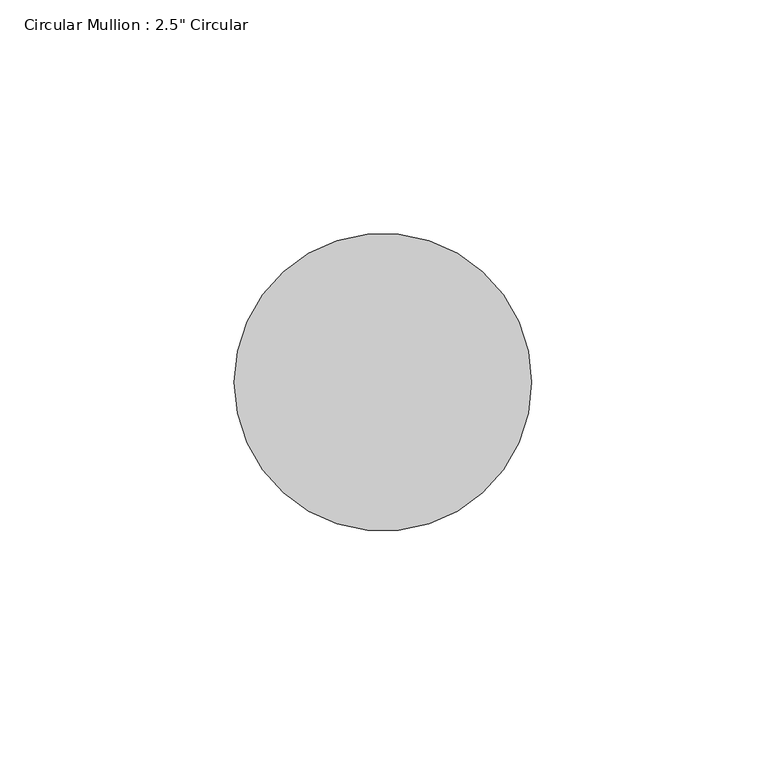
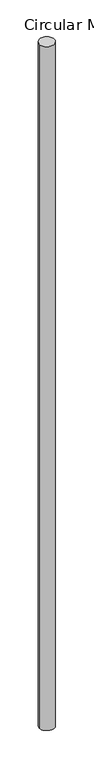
"""IFC4 building model written with IfcOpenShell, lengths in millimetres: member geometry."""

from ifc_helpers import new_model, si_unit, frame, origin, origin_with_axes, place, context, project, spatial, circle_curve, ellipse_curve, source, transform, mapped, element, save
from ifc_brep_helpers import plane_surface, cylinder_surface, advanced_brep


def member_4b4d288b(model_context):
    return source(origin(), model_context, "Body", "AdvancedBrep", [
        advanced_brep(
        [(31.75, 0.0, 0.0), (-31.75, 0.0, 0.0), (31.75, 0.0, -3041.4255191), (-31.75, 0.0, -3040.4271589)],
        [
            (0, 1, circle_curve(origin_with_axes(), 31.75)),
            (1, 0, circle_curve(origin_with_axes(), 31.75)),
            (0, 2),
            (2, 3, ellipse_curve(frame((0.0, 0.0, -3040.926339), z_axis=(0.015695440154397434, 0.05617670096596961, 0.9982974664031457), x_axis=(-0.26863064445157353, -0.9614756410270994, 0.05832811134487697)), 31.8041476, 31.75)),
            (3, 1),
            (3, 2, ellipse_curve(frame((0.0, 0.0, -3040.926339), z_axis=(0.015695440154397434, 0.05617670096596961, 0.9982974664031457), x_axis=(-0.26863064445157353, -0.9614756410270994, 0.05832811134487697)), 31.8041476, 31.75)),
        ],
        [
            plane_surface(frame((0.0, -31.75, 0.0), z_axis=(0.0, 0.0, 1.0), x_axis=(-1.0, 0.0, 0.0))),
            cylinder_surface(origin_with_axes(), 31.75),
            plane_surface(frame((293.557567, -82.0182593, -3040.926339), z_axis=(-0.015695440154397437, -0.05617670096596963, -0.9982974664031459), x_axis=(-0.26863064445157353, -0.9614756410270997, 0.05832811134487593))),
        ],
        [
            (0, [[1, 2]]),
            (1, [[-1, 3, 4, 5]]),
            (1, [[-2, -5, 6, -3]]),
            (2, [[-6, -4]]),
        ],
    ),
    ])


if __name__ == "__main__":
    model = new_model("IFC4")
    model_context = context("Model", 3, world=origin())
    ifc_project = project(units=[si_unit("LENGTHUNIT", "METRE", prefix="MILLI")], contexts=[model_context])
    site = spatial("IfcSite", under=ifc_project)
    building = spatial("IfcBuilding", under=site)
    placement = place(None, origin())
    member_shape = member_4b4d288b(model_context)
    element("IfcMember", 1, ObjectType="Circular Mullion : 2.5\" Circular", at=placement, inside=building, context=model_context, shape_type="MappedRepresentation", body=[
        mapped(member_shape, transform((0.0, 0.0, 0.0), x_axis=(1.0, 0.0, 0.0), y_axis=(0.0, 1.0, 0.0), z_axis=(0.0, 0.0, 1.0))),
    ])
    save(model, "model.ifc")
